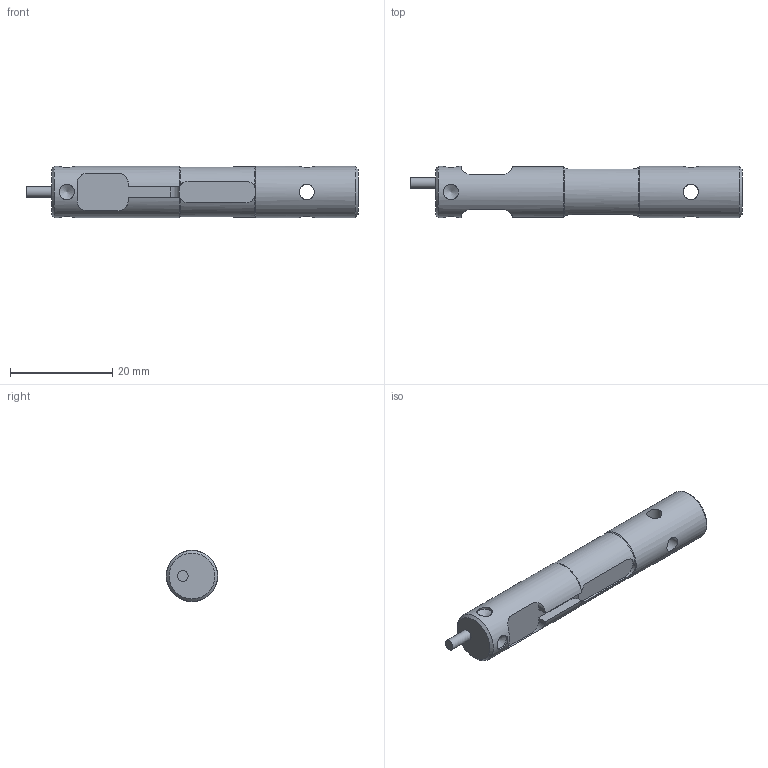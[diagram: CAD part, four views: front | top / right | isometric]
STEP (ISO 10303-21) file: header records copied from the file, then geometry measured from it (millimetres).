
FILE_DESCRIPTION(/* description */ ('Alibre Inc.'),/* implementation_level */ '2;1');
FILE_NAME(/* name */ 'export0',/* time_stamp */ '2014-06-30T10:16:36+02:00',/* author */ (''),/* organization */ (''),/* preprocessor_version */ 'ST-DEVELOPER v14',/* originating_system */ 'Alibre',/* authorisation */ '');
FILE_SCHEMA (('CONFIG_CONTROL_DESIGN'));
Length unit declared in the file: centimetre
Products named in the file (2): ID_1
Bounding box: 65 x 10 x 10 mm (x, y, z)
Volume: 4078.6 mm3; surface area: 2397.1 mm2
Topology: 1 solids, 1 shells, 69 faces, 197 edges, 126 vertices
Faces by surface type: cylinder 32, plane 27, cone 6, torus 4
Full cylindrical faces by diameter (mm): 2.097 x1, 3 x8, 3.242 x1, 10 x2
Entity records: 3577 total; most frequent: CARTESIAN_POINT 1828, ORIENTED_EDGE 326, DIRECTION 274, EDGE_CURVE 163, VERTEX_POINT 116, AXIS2_PLACEMENT_3D 116, FACE_BOUND 97, EDGE_LOOP 93
